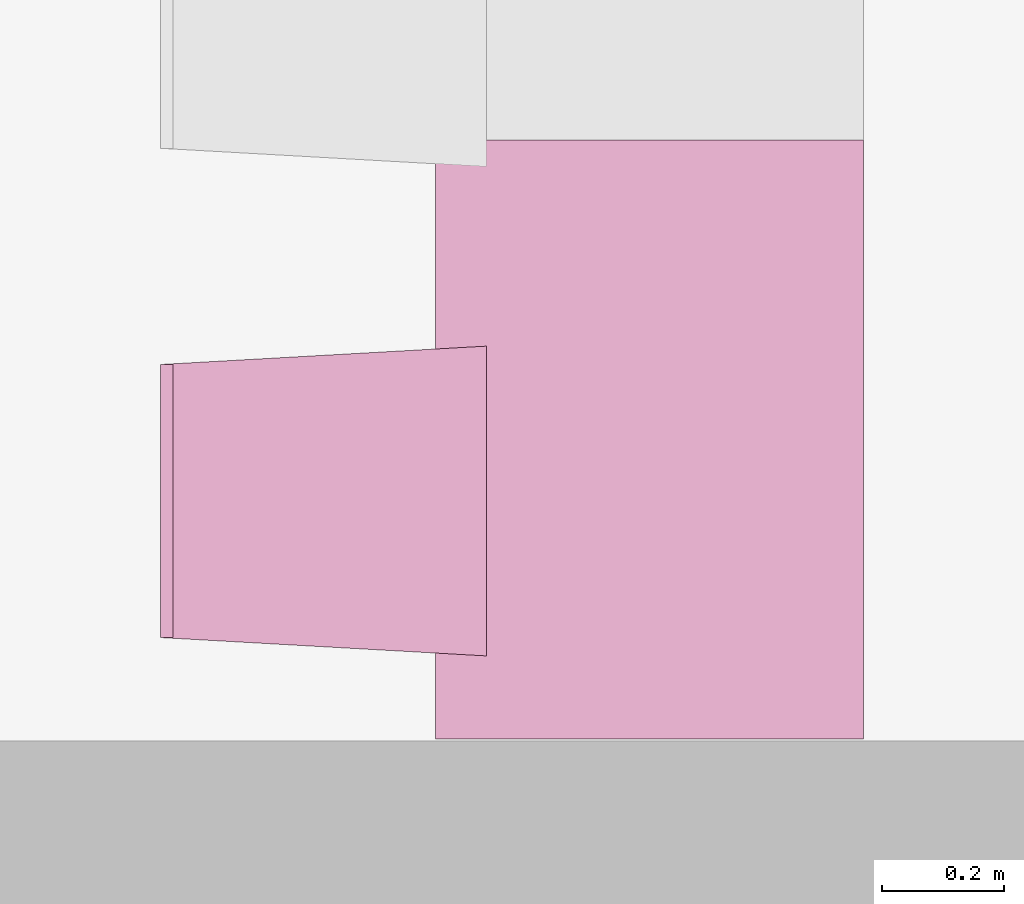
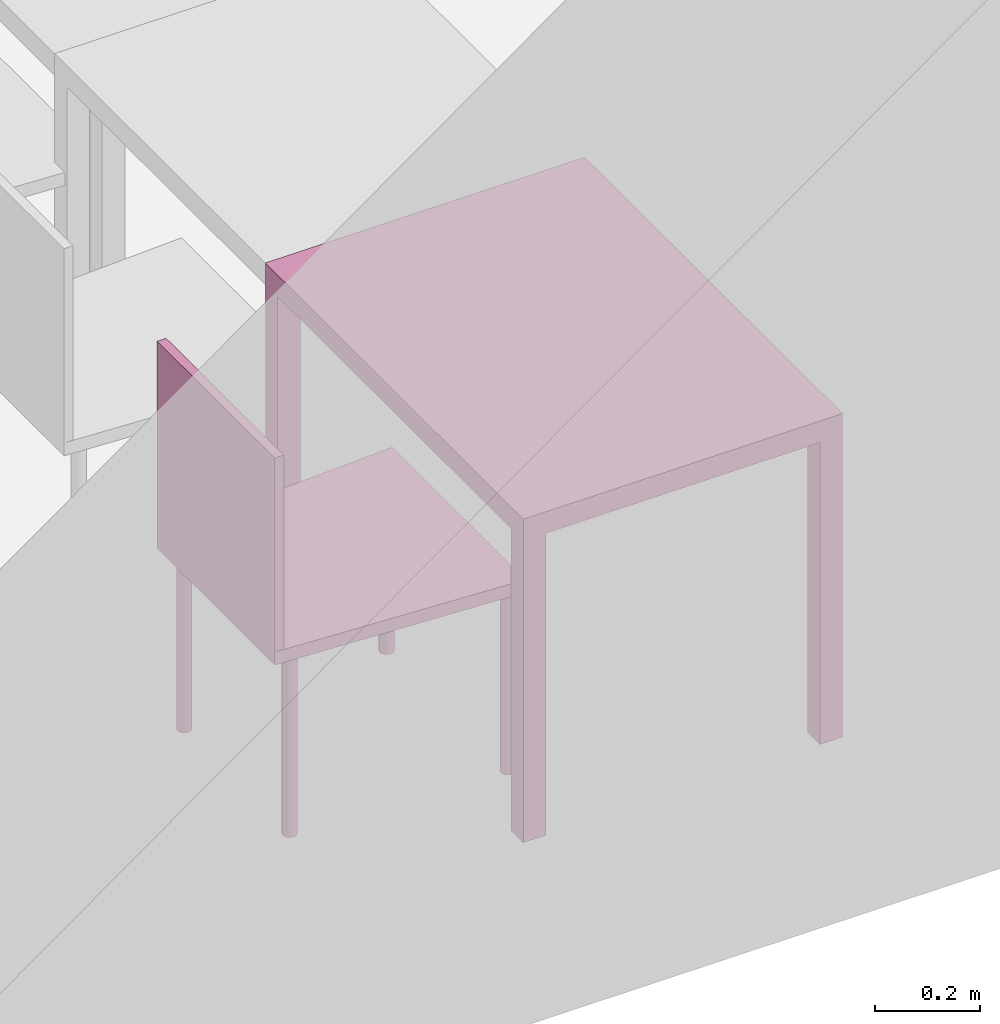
"""IFC4 building model written with IfcOpenShell, lengths in metres."""

from ifc_helpers import new_model, entity, si_unit, converted_unit, derived_unit, frame, origin, place, context, subcontext, project, spatial, faceted_brep, element, save


model = new_model("IFC4")

# Units and contexts
model_context = context("Model", 3, precision=1e-05, world=origin())
body_context = subcontext(model_context, "Body", "Model", "MODEL_VIEW")
ifc_project = project(units=[si_unit("LENGTHUNIT", "METRE"), si_unit("AREAUNIT", "SQUARE_METRE"), si_unit("VOLUMEUNIT", "CUBIC_METRE"), si_unit("MASSUNIT", "GRAM", prefix="KILO"), converted_unit("PLANEANGLEUNIT", "DEGREE", entity("IfcPlaneAngleMeasure", 0.0174532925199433), si_unit("PLANEANGLEUNIT", "RADIAN"), dimensions=[0, 0, 0, 0, 0, 0, 0]), derived_unit("THERMALTRANSMITTANCEUNIT", [(si_unit("POWERUNIT", "WATT"), 1), (si_unit("THERMODYNAMICTEMPERATUREUNIT", "KELVIN"), -1), (si_unit("LENGTHUNIT", "METRE"), -2)]), derived_unit("VOLUMETRICFLOWRATEUNIT", [(si_unit("LENGTHUNIT", "METRE"), 3), (converted_unit("TIMEUNIT", "hour", entity("IfcTimeMeasure", 3600.0), si_unit("TIMEUNIT", "SECOND"), dimensions=[0, 0, 1, 0, 0, 0, 0]), -1), (si_unit("LENGTHUNIT", "METRE"), -1)])], contexts=[model_context])

# Building, storeys
building_placement = place(None, origin())
building = spatial("IfcBuilding", under=ifc_project, at=building_placement, Name="HABITATGE PLURIFAMILIAR", CompositionType="ELEMENT")
storey_1_placement = place(building_placement, frame((0.0, 0.0, 3.35)))
storey_1 = spatial("IfcBuildingStorey", under=building, at=storey_1_placement, Name="PLANTA  ALTELL", CompositionType="ELEMENT", Elevation=3.35)
storey_2_placement = place(storey_1_placement, origin())
storey_2 = spatial("IfcBuildingStorey", under=storey_1, at=storey_2_placement, Name="NOU", CompositionType="PARTIAL")

# Furniture
furniture_1_placement = place(storey_2_placement, frame((412.336020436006, 13.2434480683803, 0.0)))
element("IfcFurniture", 1, at=furniture_1_placement, inside=storey_2, Name="Taula 80X70_PA", context=body_context, shape_type="Brep", body=[
    faceted_brep([(0.0, 0.0464285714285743, 0.0), (0.0, 0.0, 0.0), (0.0500000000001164, 0.0, 0.0), (0.0500000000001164, 0.0464285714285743, 0.0), (0.0500000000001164, 0.0464285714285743, 0.7), (0.0500000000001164, 0.0, 0.7), (0.0, 0.0, 0.7), (0.0, 0.0464285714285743, 0.7)], [[[0, 1, 2, 3]], [[4, 5, 6, 7]], [[3, 4, 7, 0]], [[2, 5, 4, 3]], [[1, 6, 5, 2]], [[0, 7, 6, 1]]], orient=[[False], [False], [False], [False], [False], [False]]),
    faceted_brep([(0.0, 0.98, 0.7), (0.0, 0.0, 0.7), (0.700069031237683, 0.0, 0.7), (0.700069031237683, 0.98, 0.7), (0.700069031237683, 0.98, 0.75), (0.700069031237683, 0.0, 0.75), (0.0, 0.0, 0.75), (0.0, 0.98, 0.75)], [[[0, 1, 2, 3]], [[4, 5, 6, 7]], [[3, 4, 7, 0]], [[2, 5, 4, 3]], [[1, 6, 5, 2]], [[0, 7, 6, 1]]], orient=[[False], [False], [False], [False], [False], [False]]),
    faceted_brep([(0.0, 0.980000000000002, 0.0), (0.0, 0.933571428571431, 0.0), (0.05, 0.933571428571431, 0.0), (0.05, 0.980000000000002, 0.0), (0.05, 0.980000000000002, 0.7), (0.05, 0.933571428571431, 0.7), (0.0, 0.933571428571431, 0.7), (0.0, 0.980000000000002, 0.7)], [[[0, 1, 2, 3]], [[4, 5, 6, 7]], [[3, 4, 7, 0]], [[2, 5, 4, 3]], [[1, 6, 5, 2]], [[0, 7, 6, 1]]], orient=[[False], [False], [False], [False], [False], [False]]),
    faceted_brep([(0.650069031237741, 0.98, 0.0), (0.650069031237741, 0.933571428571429, 0.0), (0.700069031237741, 0.933571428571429, 0.0), (0.700069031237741, 0.98, 0.0), (0.700069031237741, 0.98, 0.7), (0.700069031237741, 0.933571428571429, 0.7), (0.650069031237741, 0.933571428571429, 0.7), (0.650069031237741, 0.98, 0.7)], [[[0, 1, 2, 3]], [[4, 5, 6, 7]], [[3, 4, 7, 0]], [[2, 5, 4, 3]], [[1, 6, 5, 2]], [[0, 7, 6, 1]]], orient=[[False], [False], [False], [False], [False], [False]]),
    faceted_brep([(0.650069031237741, 0.0464285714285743, 0.0), (0.650069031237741, 0.0, 0.0), (0.700069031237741, 0.0, 0.0), (0.700069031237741, 0.0464285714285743, 0.0), (0.700069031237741, 0.0464285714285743, 0.7), (0.700069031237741, 0.0, 0.7), (0.650069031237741, 0.0, 0.7), (0.650069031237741, 0.0464285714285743, 0.7)], [[[0, 1, 2, 3]], [[4, 5, 6, 7]], [[3, 4, 7, 0]], [[2, 5, 4, 3]], [[1, 6, 5, 2]], [[0, 7, 6, 1]]], orient=[[False], [False], [False], [False], [False], [False]]),
])
furniture_2_placement = place(storey_2_placement, frame((411.886879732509, 13.3796818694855, 0.0499839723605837)))
element("IfcFurniture", 2, at=furniture_2_placement, inside=storey_2, Name="Cadira confident_PA", context=body_context, shape_type="Brep", body=[
    faceted_brep([(0.507575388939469, 0.0391636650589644, 0.0), (0.504980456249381, 0.0389479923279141, 0.0), (0.502462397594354, 0.0382849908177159, 0.0), (0.50009772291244, 0.0371948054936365, 0.0), (0.497958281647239, 0.0357105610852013, 0.0), (0.496109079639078, 0.0338773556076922, 0.0), (0.494606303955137, 0.0317508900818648, 0.0), (0.493495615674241, 0.0293957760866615, 0.0), (0.492810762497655, 0.0268835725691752, 0.0), (0.492572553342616, 0.0242906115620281, 0.0), (0.492788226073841, 0.0216956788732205, 0.0), (0.493451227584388, 0.019177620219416, 0.0), (0.494541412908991, 0.0168129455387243, 0.0), (0.496025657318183, 0.0146735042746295, 0.0), (0.497858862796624, 0.0128243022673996, 0.0), (0.499985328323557, 0.0113215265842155, 0.0), (0.502340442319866, 0.0102108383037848, 0.0), (0.504852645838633, 0.00952598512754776, 0.0), (0.507445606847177, 0.00928777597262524, 0.0), (0.510040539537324, 0.00950344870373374, 0.0), (0.512558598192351, 0.010166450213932, 0.0), (0.514923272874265, 0.0112566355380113, 0.0), (0.517062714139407, 0.0127408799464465, 0.0), (0.518911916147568, 0.0145740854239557, 0.0), (0.520414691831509, 0.0167005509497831, 0.0), (0.521525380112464, 0.0190556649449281, 0.0), (0.52221023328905, 0.0215678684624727, 0.0), (0.522448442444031, 0.024160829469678, 0.0), (0.522232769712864, 0.0267557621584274, 0.0), (0.521569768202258, 0.0292738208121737, 0.0), (0.520479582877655, 0.0316384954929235, 0.0), (0.518995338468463, 0.0337779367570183, 0.0), (0.517162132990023, 0.0356271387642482, 0.0), (0.515035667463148, 0.0371299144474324, 0.0), (0.51268055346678, 0.038240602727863, 0.0), (0.510168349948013, 0.0389254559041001, 0.0), (0.507575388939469, 0.0391636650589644, 0.448281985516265), (0.510168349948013, 0.0389254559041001, 0.448281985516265), (0.51268055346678, 0.038240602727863, 0.448281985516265), (0.515035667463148, 0.0371299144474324, 0.448281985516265), (0.517162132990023, 0.0356271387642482, 0.448281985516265), (0.518995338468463, 0.0337779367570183, 0.448281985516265), (0.520479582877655, 0.0316384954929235, 0.448281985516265), (0.521569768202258, 0.0292738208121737, 0.448281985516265), (0.522232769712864, 0.0267557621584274, 0.448281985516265), (0.522448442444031, 0.024160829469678, 0.448281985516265), (0.52221023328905, 0.0215678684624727, 0.448281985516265), (0.521525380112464, 0.0190556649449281, 0.448281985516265), (0.520414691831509, 0.0167005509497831, 0.448281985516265), (0.518911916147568, 0.0145740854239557, 0.448281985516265), (0.517062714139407, 0.0127408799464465, 0.448281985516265), (0.514923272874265, 0.0112566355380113, 0.448281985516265), (0.512558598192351, 0.010166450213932, 0.448281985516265), (0.510040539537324, 0.00950344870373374, 0.448281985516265), (0.507445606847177, 0.00928777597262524, 0.448281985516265), (0.504852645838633, 0.00952598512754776, 0.448281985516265), (0.502340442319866, 0.0102108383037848, 0.448281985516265), (0.499985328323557, 0.0113215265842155, 0.448281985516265), (0.497858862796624, 0.0128243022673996, 0.448281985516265), (0.496025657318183, 0.0146735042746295, 0.448281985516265), (0.494541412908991, 0.0168129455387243, 0.448281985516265), (0.493451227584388, 0.019177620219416, 0.448281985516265), (0.492788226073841, 0.0216956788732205, 0.448281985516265), (0.492572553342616, 0.0242906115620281, 0.448281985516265), (0.492810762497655, 0.0268835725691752, 0.448281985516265), (0.493495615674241, 0.0293957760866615, 0.448281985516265), (0.494606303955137, 0.0317508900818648, 0.448281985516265), (0.496109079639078, 0.0338773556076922, 0.448281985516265), (0.497958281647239, 0.0357105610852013, 0.448281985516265), (0.50009772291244, 0.0371948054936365, 0.448281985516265), (0.502462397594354, 0.0382849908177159, 0.448281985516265), (0.504980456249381, 0.0389479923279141, 0.448281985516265)], [[[0, 1, 2, 3, 4, 5, 6, 7, 8, 9, 10, 11, 12, 13, 14, 15, 16, 17, 18, 19, 20, 21, 22, 23, 24, 25, 26, 27, 28, 29, 30, 31, 32, 33, 34, 35]], [[36, 37, 38, 39, 40, 41, 42, 43, 44, 45, 46, 47, 48, 49, 50, 51, 52, 53, 54, 55, 56, 57, 58, 59, 60, 61, 62, 63, 64, 65, 66, 67, 68, 69, 70, 71]], [[1, 0, 36, 71]], [[2, 1, 71, 70]], [[3, 2, 70, 69]], [[4, 3, 69, 68]], [[5, 4, 68, 67]], [[6, 5, 67, 66]], [[7, 6, 66, 65]], [[8, 7, 65, 64]], [[9, 8, 64, 63]], [[10, 9, 63, 62]], [[11, 10, 62, 61]], [[12, 11, 61, 60]], [[13, 12, 60, 59]], [[14, 13, 59, 58]], [[15, 14, 58, 57]], [[16, 15, 57, 56]], [[17, 16, 56, 55]], [[18, 17, 55, 54]], [[19, 18, 54, 53]], [[20, 19, 53, 52]], [[21, 20, 52, 51]], [[22, 21, 51, 50]], [[23, 22, 50, 49]], [[24, 23, 49, 48]], [[25, 24, 48, 47]], [[26, 25, 47, 46]], [[27, 26, 46, 45]], [[28, 27, 45, 44]], [[29, 28, 44, 43]], [[30, 29, 43, 42]], [[31, 30, 42, 41]], [[32, 31, 41, 40]], [[33, 32, 40, 39]], [[34, 33, 39, 38]], [[35, 34, 38, 37]], [[0, 35, 37, 36]]], orient=[[False], [False], [False], [False], [False], [False], [False], [False], [False], [False], [False], [False], [False], [False], [False], [False], [False], [False], [False], [False], [False], [False], [False], [False], [False], [False], [False], [False], [False], [False], [False], [False], [False], [False], [False], [False], [False], [False]]),
    faceted_brep([(0.0451683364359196, 0.0668016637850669, 0.0), (0.0425734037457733, 0.0665859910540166, 0.0), (0.0400553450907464, 0.065922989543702, 0.0), (0.0376906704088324, 0.0648328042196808, 0.0), (0.0355512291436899, 0.0633485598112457, 0.0), (0.0337020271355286, 0.0615153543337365, 0.0), (0.0321992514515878, 0.0593888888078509, 0.0), (0.0310885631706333, 0.057033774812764, 0.0), (0.0304037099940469, 0.0545215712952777, 0.0), (0.030165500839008, 0.0519286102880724, 0.0), (0.0303811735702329, 0.0493336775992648, 0.0), (0.0310441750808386, 0.0468156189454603, 0.0), (0.0321343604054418, 0.0444509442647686, 0.0), (0.0336186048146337, 0.0423115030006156, 0.0), (0.0354518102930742, 0.0404623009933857, 0.0), (0.0375782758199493, 0.0389595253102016, 0.0), (0.0399333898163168, 0.0378488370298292, 0.0), (0.0424455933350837, 0.0371639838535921, 0.0), (0.0450385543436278, 0.0369257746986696, 0.0), (0.0476334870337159, 0.0371414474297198, 0.0), (0.0501515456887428, 0.0378044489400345, 0.0), (0.0525162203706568, 0.0388946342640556, 0.0), (0.0546556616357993, 0.0403788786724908, 0.0), (0.0565048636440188, 0.0422120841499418, 0.0), (0.0580076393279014, 0.0443385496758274, 0.0), (0.0591183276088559, 0.0466936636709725, 0.0), (0.0598031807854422, 0.0492058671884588, 0.0), (0.0600413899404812, 0.0517988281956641, 0.0), (0.0598257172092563, 0.0543937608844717, 0.0), (0.0591627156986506, 0.0569118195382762, 0.0), (0.0580725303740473, 0.0592764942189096, 0.0), (0.0565882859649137, 0.0614159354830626, 0.0), (0.0547550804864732, 0.0632651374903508, 0.0), (0.0526286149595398, 0.0647679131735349, 0.0), (0.0502735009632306, 0.0658786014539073, 0.0), (0.0477612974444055, 0.0665634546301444, 0.0), (0.0451683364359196, 0.0668016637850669, 0.448281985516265), (0.0477612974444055, 0.0665634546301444, 0.448281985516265), (0.0502735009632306, 0.0658786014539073, 0.448281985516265), (0.0526286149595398, 0.0647679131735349, 0.448281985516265), (0.0547550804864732, 0.0632651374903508, 0.448281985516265), (0.0565882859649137, 0.0614159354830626, 0.448281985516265), (0.0580725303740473, 0.0592764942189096, 0.448281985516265), (0.0591627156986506, 0.0569118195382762, 0.448281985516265), (0.0598257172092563, 0.0543937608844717, 0.448281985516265), (0.0600413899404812, 0.0517988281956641, 0.448281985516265), (0.0598031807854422, 0.0492058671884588, 0.448281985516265), (0.0591183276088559, 0.0466936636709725, 0.448281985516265), (0.0580076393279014, 0.0443385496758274, 0.448281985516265), (0.0565048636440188, 0.0422120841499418, 0.448281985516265), (0.0546556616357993, 0.0403788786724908, 0.448281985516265), (0.0525162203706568, 0.0388946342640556, 0.448281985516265), (0.0501515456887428, 0.0378044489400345, 0.448281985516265), (0.0476334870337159, 0.0371414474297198, 0.448281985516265), (0.0450385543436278, 0.0369257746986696, 0.448281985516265), (0.0424455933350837, 0.0371639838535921, 0.448281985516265), (0.0399333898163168, 0.0378488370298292, 0.448281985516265), (0.0375782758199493, 0.0389595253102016, 0.448281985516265), (0.0354518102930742, 0.0404623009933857, 0.448281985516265), (0.0336186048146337, 0.0423115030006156, 0.448281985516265), (0.0321343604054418, 0.0444509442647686, 0.448281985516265), (0.0310441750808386, 0.0468156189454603, 0.448281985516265), (0.0303811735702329, 0.0493336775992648, 0.448281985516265), (0.030165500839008, 0.0519286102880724, 0.448281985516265), (0.0304037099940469, 0.0545215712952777, 0.448281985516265), (0.0310885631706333, 0.057033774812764, 0.448281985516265), (0.0321992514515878, 0.0593888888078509, 0.448281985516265), (0.0337020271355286, 0.0615153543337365, 0.448281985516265), (0.0355512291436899, 0.0633485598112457, 0.448281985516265), (0.0376906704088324, 0.0648328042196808, 0.448281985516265), (0.0400553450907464, 0.065922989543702, 0.448281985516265), (0.0425734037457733, 0.0665859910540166, 0.448281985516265)], [[[0, 1, 2, 3, 4, 5, 6, 7, 8, 9, 10, 11, 12, 13, 14, 15, 16, 17, 18, 19, 20, 21, 22, 23, 24, 25, 26, 27, 28, 29, 30, 31, 32, 33, 34, 35]], [[36, 37, 38, 39, 40, 41, 42, 43, 44, 45, 46, 47, 48, 49, 50, 51, 52, 53, 54, 55, 56, 57, 58, 59, 60, 61, 62, 63, 64, 65, 66, 67, 68, 69, 70, 71]], [[1, 0, 36, 71]], [[2, 1, 71, 70]], [[3, 2, 70, 69]], [[4, 3, 69, 68]], [[5, 4, 68, 67]], [[6, 5, 67, 66]], [[7, 6, 66, 65]], [[8, 7, 65, 64]], [[9, 8, 64, 63]], [[10, 9, 63, 62]], [[11, 10, 62, 61]], [[12, 11, 61, 60]], [[13, 12, 60, 59]], [[14, 13, 59, 58]], [[15, 14, 58, 57]], [[16, 15, 57, 56]], [[17, 16, 56, 55]], [[18, 17, 55, 54]], [[19, 18, 54, 53]], [[20, 19, 53, 52]], [[21, 20, 52, 51]], [[22, 21, 51, 50]], [[23, 22, 50, 49]], [[24, 23, 49, 48]], [[25, 24, 48, 47]], [[26, 25, 47, 46]], [[27, 26, 46, 45]], [[28, 27, 45, 44]], [[29, 28, 44, 43]], [[30, 29, 43, 42]], [[31, 30, 42, 41]], [[32, 31, 41, 40]], [[33, 32, 40, 39]], [[34, 33, 39, 38]], [[35, 34, 38, 37]], [[0, 35, 37, 36]]], orient=[[False], [False], [False], [False], [False], [False], [False], [False], [False], [False], [False], [False], [False], [False], [False], [False], [False], [False], [False], [False], [False], [False], [False], [False], [False], [False], [False], [False], [False], [False], [False], [False], [False], [False], [False], [False], [False], [False]]),
    faceted_brep([(0.50757538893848, 0.499163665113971, 0.0), (0.504980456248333, 0.49894799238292, 0.0), (0.502462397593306, 0.498284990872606, 0.0), (0.500097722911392, 0.497194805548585, 0.0), (0.49795828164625, 0.495710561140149, 0.0), (0.496109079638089, 0.493877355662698, 0.0), (0.494606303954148, 0.491750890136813, 0.0), (0.493495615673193, 0.489395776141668, 0.0), (0.492810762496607, 0.486883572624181, 0.0), (0.492572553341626, 0.484290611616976, 0.0), (0.492788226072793, 0.481695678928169, 0.0), (0.493451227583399, 0.479177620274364, 0.0), (0.494541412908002, 0.476812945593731, 0.0), (0.496025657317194, 0.474673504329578, 0.0), (0.497858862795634, 0.472824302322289, 0.0), (0.499985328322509, 0.471321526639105, 0.0), (0.502340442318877, 0.470210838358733, 0.0), (0.504852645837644, 0.469525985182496, 0.0), (0.507445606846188, 0.469287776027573, 0.0), (0.510040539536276, 0.469503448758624, 0.0), (0.512558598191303, 0.470166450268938, 0.0), (0.514923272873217, 0.471256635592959, 0.0), (0.517062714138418, 0.472740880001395, 0.0), (0.518911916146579, 0.474574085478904, 0.0), (0.52041469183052, 0.476700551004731, 0.0), (0.521525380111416, 0.479055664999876, 0.0), (0.522210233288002, 0.481567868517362, 0.0), (0.522448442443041, 0.484160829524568, 0.0), (0.522232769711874, 0.486755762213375, 0.0), (0.521569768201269, 0.48927382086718, 0.0), (0.520479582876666, 0.491638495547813, 0.0), (0.518995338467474, 0.493777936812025, 0.0), (0.517162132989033, 0.495627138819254, 0.0), (0.515035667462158, 0.497129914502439, 0.0), (0.512680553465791, 0.498240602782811, 0.0), (0.510168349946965, 0.498925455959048, 0.0), (0.50757538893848, 0.499163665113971, 0.448281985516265), (0.510168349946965, 0.498925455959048, 0.448281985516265), (0.512680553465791, 0.498240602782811, 0.448281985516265), (0.515035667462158, 0.497129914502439, 0.448281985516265), (0.517162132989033, 0.495627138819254, 0.448281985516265), (0.518995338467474, 0.493777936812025, 0.448281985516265), (0.520479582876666, 0.491638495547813, 0.448281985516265), (0.521569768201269, 0.48927382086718, 0.448281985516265), (0.522232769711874, 0.486755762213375, 0.448281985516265), (0.522448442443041, 0.484160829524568, 0.448281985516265), (0.522210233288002, 0.481567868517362, 0.448281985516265), (0.521525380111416, 0.479055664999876, 0.448281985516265), (0.52041469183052, 0.476700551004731, 0.448281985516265), (0.518911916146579, 0.474574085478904, 0.448281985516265), (0.517062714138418, 0.472740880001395, 0.448281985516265), (0.514923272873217, 0.471256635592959, 0.448281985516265), (0.512558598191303, 0.470166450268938, 0.448281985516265), (0.510040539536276, 0.469503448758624, 0.448281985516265), (0.507445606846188, 0.469287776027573, 0.448281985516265), (0.504852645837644, 0.469525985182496, 0.448281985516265), (0.502340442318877, 0.470210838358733, 0.448281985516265), (0.499985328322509, 0.471321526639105, 0.448281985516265), (0.497858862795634, 0.472824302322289, 0.448281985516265), (0.496025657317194, 0.474673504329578, 0.448281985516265), (0.494541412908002, 0.476812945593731, 0.448281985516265), (0.493451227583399, 0.479177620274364, 0.448281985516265), (0.492788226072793, 0.481695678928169, 0.448281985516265), (0.492572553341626, 0.484290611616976, 0.448281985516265), (0.492810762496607, 0.486883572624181, 0.448281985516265), (0.493495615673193, 0.489395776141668, 0.448281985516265), (0.494606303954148, 0.491750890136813, 0.448281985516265), (0.496109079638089, 0.493877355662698, 0.448281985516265), (0.49795828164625, 0.495710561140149, 0.448281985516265), (0.500097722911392, 0.497194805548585, 0.448281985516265), (0.502462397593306, 0.498284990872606, 0.448281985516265), (0.504980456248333, 0.49894799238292, 0.448281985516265)], [[[0, 1, 2, 3, 4, 5, 6, 7, 8, 9, 10, 11, 12, 13, 14, 15, 16, 17, 18, 19, 20, 21, 22, 23, 24, 25, 26, 27, 28, 29, 30, 31, 32, 33, 34, 35]], [[36, 37, 38, 39, 40, 41, 42, 43, 44, 45, 46, 47, 48, 49, 50, 51, 52, 53, 54, 55, 56, 57, 58, 59, 60, 61, 62, 63, 64, 65, 66, 67, 68, 69, 70, 71]], [[1, 0, 36, 71]], [[2, 1, 71, 70]], [[3, 2, 70, 69]], [[4, 3, 69, 68]], [[5, 4, 68, 67]], [[6, 5, 67, 66]], [[7, 6, 66, 65]], [[8, 7, 65, 64]], [[9, 8, 64, 63]], [[10, 9, 63, 62]], [[11, 10, 62, 61]], [[12, 11, 61, 60]], [[13, 12, 60, 59]], [[14, 13, 59, 58]], [[15, 14, 58, 57]], [[16, 15, 57, 56]], [[17, 16, 56, 55]], [[18, 17, 55, 54]], [[19, 18, 54, 53]], [[20, 19, 53, 52]], [[21, 20, 52, 51]], [[22, 21, 51, 50]], [[23, 22, 50, 49]], [[24, 23, 49, 48]], [[25, 24, 48, 47]], [[26, 25, 47, 46]], [[27, 26, 46, 45]], [[28, 27, 45, 44]], [[29, 28, 44, 43]], [[30, 29, 43, 42]], [[31, 30, 42, 41]], [[32, 31, 41, 40]], [[33, 32, 40, 39]], [[34, 33, 39, 38]], [[35, 34, 38, 37]], [[0, 35, 37, 36]]], orient=[[False], [False], [False], [False], [False], [False], [False], [False], [False], [False], [False], [False], [False], [False], [False], [False], [False], [False], [False], [False], [False], [False], [False], [False], [False], [False], [False], [False], [False], [False], [False], [False], [False], [False], [False], [False], [False], [False]]),
    faceted_brep([(0.0451683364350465, 0.466801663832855, 0.0), (0.0425734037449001, 0.466585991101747, 0.0), (0.0400553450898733, 0.46592298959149, 0.0), (0.0376906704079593, 0.464832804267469, 0.0), (0.0355512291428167, 0.463348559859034, 0.0), (0.0337020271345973, 0.461515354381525, 0.0), (0.0321992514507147, 0.459388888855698, 0.0), (0.0310885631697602, 0.457033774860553, 0.0), (0.0304037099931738, 0.454521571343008, 0.0), (0.0301655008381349, 0.451928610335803, 0.0), (0.0303811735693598, 0.449333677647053, 0.0), (0.0310441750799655, 0.446815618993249, 0.0), (0.0321343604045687, 0.444450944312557, 0.0), (0.0336186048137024, 0.442311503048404, 0.0), (0.0354518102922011, 0.440462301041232, 0.0), (0.0375782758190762, 0.43895952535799, 0.0), (0.0399333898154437, 0.437848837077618, 0.0), (0.0424455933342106, 0.437163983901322, 0.0), (0.0450385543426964, 0.436925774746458, 0.0), (0.0476334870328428, 0.437141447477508, 0.0), (0.0501515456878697, 0.437804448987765, 0.0), (0.0525162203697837, 0.438894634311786, 0.0), (0.0546556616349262, 0.440378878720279, 0.0), (0.0565048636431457, 0.44221208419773, 0.0), (0.0580076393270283, 0.444338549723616, 0.0), (0.0591183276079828, 0.446693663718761, 0.0), (0.0598031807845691, 0.449205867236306, 0.0), (0.0600413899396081, 0.451798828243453, 0.0), (0.0598257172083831, 0.45439376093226, 0.0), (0.0591627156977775, 0.456911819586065, 0.0), (0.0580725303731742, 0.459276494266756, 0.0), (0.0565882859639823, 0.461415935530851, 0.0), (0.0547550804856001, 0.463265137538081, 0.0), (0.0526286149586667, 0.464767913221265, 0.0), (0.0502735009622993, 0.465878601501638, 0.0), (0.0477612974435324, 0.466563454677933, 0.0), (0.0451683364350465, 0.466801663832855, 0.448281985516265), (0.0477612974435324, 0.466563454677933, 0.448281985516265), (0.0502735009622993, 0.465878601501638, 0.448281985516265), (0.0526286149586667, 0.464767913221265, 0.448281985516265), (0.0547550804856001, 0.463265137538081, 0.448281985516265), (0.0565882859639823, 0.461415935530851, 0.448281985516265), (0.0580725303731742, 0.459276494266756, 0.448281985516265), (0.0591627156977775, 0.456911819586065, 0.448281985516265), (0.0598257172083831, 0.45439376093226, 0.448281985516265), (0.0600413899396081, 0.451798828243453, 0.448281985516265), (0.0598031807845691, 0.449205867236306, 0.448281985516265), (0.0591183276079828, 0.446693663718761, 0.448281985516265), (0.0580076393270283, 0.444338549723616, 0.448281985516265), (0.0565048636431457, 0.44221208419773, 0.448281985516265), (0.0546556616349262, 0.440378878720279, 0.448281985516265), (0.0525162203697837, 0.438894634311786, 0.448281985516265), (0.0501515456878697, 0.437804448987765, 0.448281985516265), (0.0476334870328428, 0.437141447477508, 0.448281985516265), (0.0450385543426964, 0.436925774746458, 0.448281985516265), (0.0424455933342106, 0.437163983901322, 0.448281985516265), (0.0399333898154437, 0.437848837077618, 0.448281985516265), (0.0375782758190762, 0.43895952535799, 0.448281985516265), (0.0354518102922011, 0.440462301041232, 0.448281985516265), (0.0336186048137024, 0.442311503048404, 0.448281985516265), (0.0321343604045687, 0.444450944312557, 0.448281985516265), (0.0310441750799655, 0.446815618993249, 0.448281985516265), (0.0303811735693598, 0.449333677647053, 0.448281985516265), (0.0301655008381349, 0.451928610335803, 0.448281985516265), (0.0304037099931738, 0.454521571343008, 0.448281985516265), (0.0310885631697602, 0.457033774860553, 0.448281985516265), (0.0321992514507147, 0.459388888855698, 0.448281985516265), (0.0337020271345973, 0.461515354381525, 0.448281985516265), (0.0355512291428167, 0.463348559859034, 0.448281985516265), (0.0376906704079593, 0.464832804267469, 0.448281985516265), (0.0400553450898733, 0.46592298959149, 0.448281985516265), (0.0425734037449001, 0.466585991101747, 0.448281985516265)], [[[0, 1, 2, 3, 4, 5, 6, 7, 8, 9, 10, 11, 12, 13, 14, 15, 16, 17, 18, 19, 20, 21, 22, 23, 24, 25, 26, 27, 28, 29, 30, 31, 32, 33, 34, 35]], [[36, 37, 38, 39, 40, 41, 42, 43, 44, 45, 46, 47, 48, 49, 50, 51, 52, 53, 54, 55, 56, 57, 58, 59, 60, 61, 62, 63, 64, 65, 66, 67, 68, 69, 70, 71]], [[1, 0, 36, 71]], [[2, 1, 71, 70]], [[3, 2, 70, 69]], [[4, 3, 69, 68]], [[5, 4, 68, 67]], [[6, 5, 67, 66]], [[7, 6, 66, 65]], [[8, 7, 65, 64]], [[9, 8, 64, 63]], [[10, 9, 63, 62]], [[11, 10, 62, 61]], [[12, 11, 61, 60]], [[13, 12, 60, 59]], [[14, 13, 59, 58]], [[15, 14, 58, 57]], [[16, 15, 57, 56]], [[17, 16, 56, 55]], [[18, 17, 55, 54]], [[19, 18, 54, 53]], [[20, 19, 53, 52]], [[21, 20, 52, 51]], [[22, 21, 51, 50]], [[23, 22, 50, 49]], [[24, 23, 49, 48]], [[25, 24, 48, 47]], [[26, 25, 47, 46]], [[27, 26, 46, 45]], [[28, 27, 45, 44]], [[29, 28, 44, 43]], [[30, 29, 43, 42]], [[31, 30, 42, 41]], [[32, 31, 41, 40]], [[33, 32, 40, 39]], [[34, 33, 39, 38]], [[35, 34, 38, 37]], [[0, 35, 37, 36]]], orient=[[False], [False], [False], [False], [False], [False], [False], [False], [False], [False], [False], [False], [False], [False], [False], [False], [False], [False], [False], [False], [False], [False], [False], [False], [False], [False], [False], [False], [False], [False], [False], [False], [False], [False], [False], [False], [False], [False]]),
    faceted_brep([(0.0, 0.476514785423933, 0.418281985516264), (0.0, 0.0300000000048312, 0.418281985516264), (0.532607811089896, 0.0, 0.418281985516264), (0.53260781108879, 0.506514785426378, 0.418281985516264), (0.53260781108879, 0.506514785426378, 0.448281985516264), (0.532607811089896, 0.0, 0.448281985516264), (0.0, 0.0300000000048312, 0.448281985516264), (0.0, 0.476514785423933, 0.448281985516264)], [[[0, 1, 2, 3]], [[4, 5, 6, 7]], [[3, 4, 7, 0]], [[2, 5, 4, 3]], [[1, 6, 5, 2]], [[0, 7, 6, 1]]], orient=[[False], [False], [False], [False], [False], [False]]),
    faceted_brep([(0.0200000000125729, 0.476514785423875, 0.448281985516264), (0.0, 0.476514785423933, 0.448281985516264), (0.0, 0.0300000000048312, 0.448281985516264), (0.0200000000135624, 0.0300000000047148, 0.448281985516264), (0.0200000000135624, 0.0300000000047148, 0.898281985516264), (0.0, 0.0300000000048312, 0.898281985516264), (0.0, 0.476514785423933, 0.898281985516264), (0.0200000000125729, 0.476514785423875, 0.898281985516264)], [[[0, 1, 2, 3]], [[4, 5, 6, 7]], [[3, 4, 7, 0]], [[2, 5, 4, 3]], [[1, 6, 5, 2]], [[0, 7, 6, 1]]], orient=[[False], [False], [False], [False], [False], [False]]),
])

save(model, "model.ifc")
